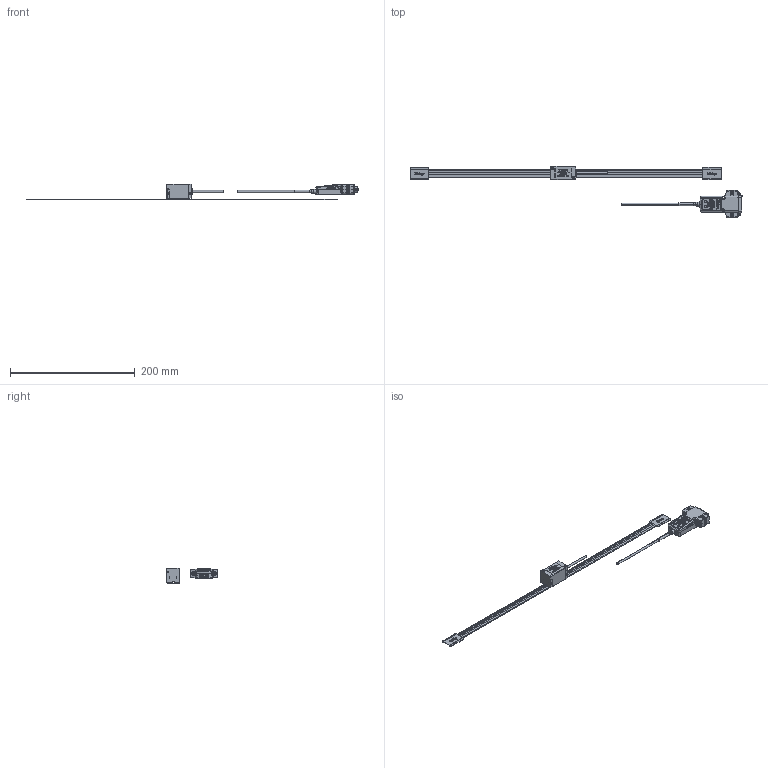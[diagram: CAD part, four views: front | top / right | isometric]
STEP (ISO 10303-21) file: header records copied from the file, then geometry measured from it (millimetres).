
FILE_DESCRIPTION(('Creo Elements/Direct Modeling STEP Export'),'2;1');
FILE_NAME('ST1300-400E.stp','2018-02-27T10:26:02',(''),(''),'Creo Elements/Direct Modeling STEP processor for AP214 (Solid Model)','Creo Elements/Direct Modeling 18.1B 29-Sep-2012 (C) Parametric Technology GmbH','');
FILE_SCHEMA(('AUTOMOTIVE_DESIGN { 1 0 10303 214 1 1 1 1 }'));
Products named in the file (4): Connector; DetectorHead; Scale_400; ST1300-400E
Assembly tree (3 placements, depth 2):
  ST1300-400E
    Scale_400
    DetectorHead
    Connector
Bounding box: 533.1 x 83 x 25.45 mm (x, y, z)
Volume: 23686 mm3; surface area: 31201.2 mm2
Topology: 2 solids, 6 shells, 3203 faces, 8994 edges, 5961 vertices
Faces by surface type: plane 1571, cylinder 1460, cone 83, extrusion 36, torus 26, bspline 23, revolution 4
Entity records: 108676 total; most frequent: CARTESIAN_POINT 24043, ORIENTED_EDGE 17972, DIRECTION 17522, EDGE_CURVE 8982, AXIS2_PLACEMENT_3D 5964, VERTEX_POINT 5961, VECTOR 5588, LINE 5572
